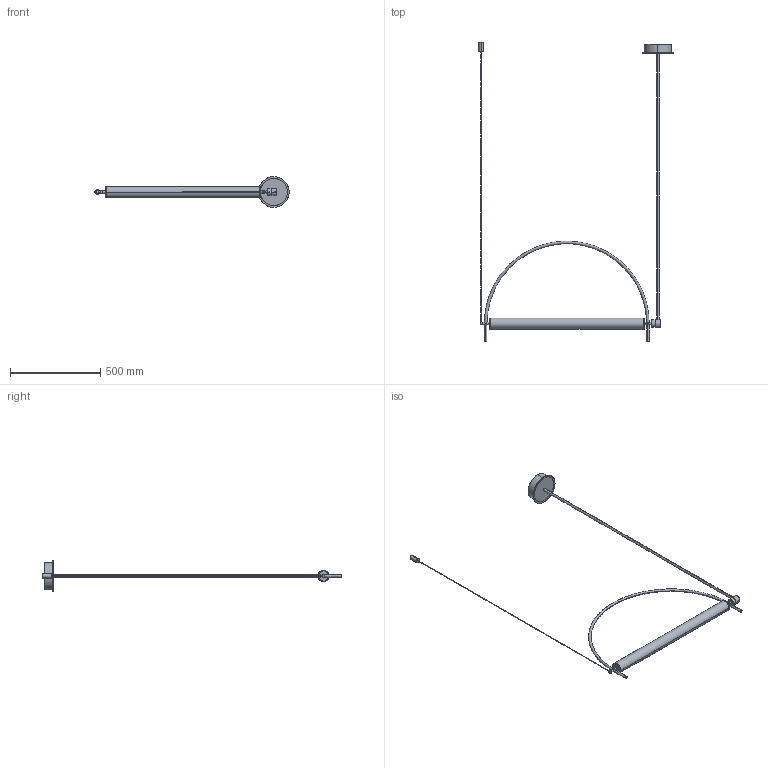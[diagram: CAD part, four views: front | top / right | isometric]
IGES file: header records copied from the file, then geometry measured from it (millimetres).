
Start section: SolidWorks IGES file using analytic representation for surfaces
Global section: file name: C:\Users\adrian\Desktop\MODELADOS USA\ARC\CU1292_ARC.IGS; native system: SolidWorks 2023; preprocessor: SolidWorks 2023; author: adrian; date: 260605.093352; units: inch
Bounding box: 1077.66 x 1660.04 x 169.93 mm (x, y, z)
Surface area: 573351.6 mm2 (no closed solid volume)
Topology: 0 solids, 0 shells, 84 faces, 2628 edges, 2628 vertices
Faces by surface type: revolution 50, bspline 34
